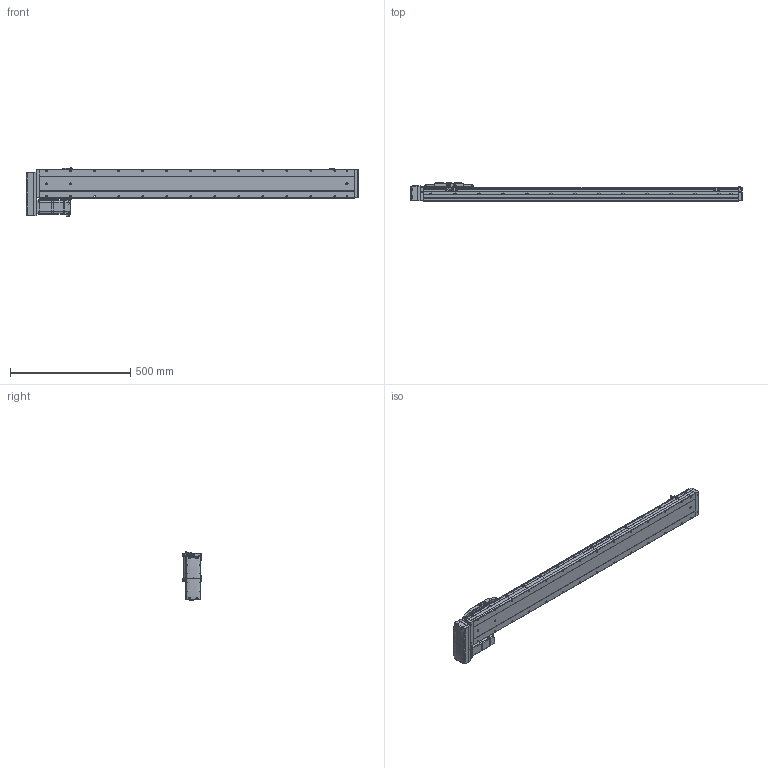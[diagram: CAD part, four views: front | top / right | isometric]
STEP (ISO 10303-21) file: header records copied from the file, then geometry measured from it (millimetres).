
FILE_DESCRIPTION (( 'STEP AP214' ), '1' );
FILE_NAME ('CTH12-L10-S1100-BR-C40（简）.STEP', '2023-02-04T06:58:52', ( '' ), ( '' ), 'SwSTEP 2.0', 'SolidWorks 2018', '' );
FILE_SCHEMA (( 'AUTOMOTIVE_DESIGN' ));
Length unit declared in the file: millimetre
Products named in the file (24): 嫖萇羲壽郪磁2; CTH12; CTH嫖萇羲壽假蚾啣; CTH12賑怢郪磁; CTH12底座-L1311简（1100行程）; CTH12耜蚾裔; CTH400W假蚾啣; CTH400W垫板（3个厚）; CTH12-L10-S1100-BR-C40（简）; AC60_Valor predeterminado; 内六角圆柱头螺钉M3-1; 蚐郲; 内六角圆柱头螺钉M3-2; CTH12侧装连接板（标准）简; 湮賑怢  裔赽-1(CTH12)賑怢; CTH12覜茼え; CTH12_body_3; CTH12-BL_body_4; 内六角圆柱头螺钉M3; M5蹟隊; 嫖萇羲壽郪磁1; PM-Y45; CTH12賑怢ㄗ潠ㄘ; hex nuts, style 1-grades ab gb_GB_FASTENER_NUT_SNAB1 M3-N
Assembly tree (44 placements, depth 4):
  CTH12-L10-S1100-BR-C40（简）
    CTH12底座-L1311简（1100行程）
    蚐郲  x2
    CTH12_body_3
    CTH12-BL_body_4
    CTH12侧装连接板（标准）简
    CTH12耜蚾裔
    CTH12賑怢郪磁
      CTH12
        湮賑怢  裔赽-1(CTH12)賑怢
        CTH12賑怢ㄗ潠ㄘ
    CTH12覜茼え
    嫖萇羲壽郪磁1  x2
      CTH嫖萇羲壽假蚾啣
      PM-Y45
      内六角圆柱头螺钉M3-2
      内六角圆柱头螺钉M3-1
      hex nuts, style 1-grades ab gb_GB_FASTENER_NUT_SNAB1 M3-N
    嫖萇羲壽郪磁2
      CTH嫖萇羲壽假蚾啣
      PM-Y45
      内六角圆柱头螺钉M3-1  x2
      内六角圆柱头螺钉M3-2  x2
      hex nuts, style 1-grades ab gb_GB_FASTENER_NUT_SNAB1 M3-N  x2
    CTH400W垫板（3个厚）
    AC60_Valor predeterminado
    内六角圆柱头螺钉M3  x6
    M5蹟隊  x4
    CTH400W假蚾啣
Bounding box: 1381.5 x 76 x 201.06 mm (x, y, z)
Volume: 9389208.2 mm3; surface area: 808763.9 mm2
Topology: 47 solids, 48 shells, 3014 faces, 7689 edges, 4893 vertices
Faces by surface type: plane 1615, cylinder 834, cone 403, bspline 110, torus 52
Entity records: 88837 total; most frequent: CARTESIAN_POINT 24750, ORIENTED_EDGE 12558, DIRECTION 12234, EDGE_CURVE 6279, AXIS2_PLACEMENT_3D 4160, VERTEX_POINT 3997, LINE 3914, VECTOR 3914
